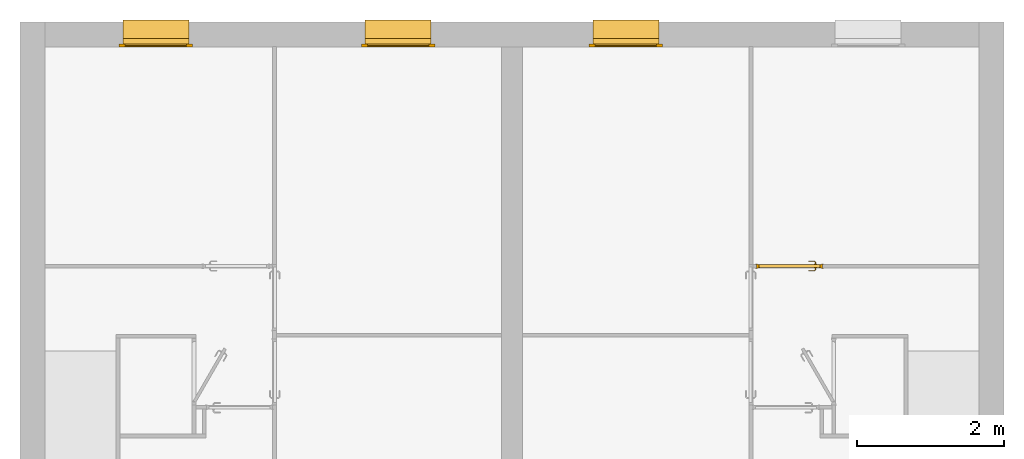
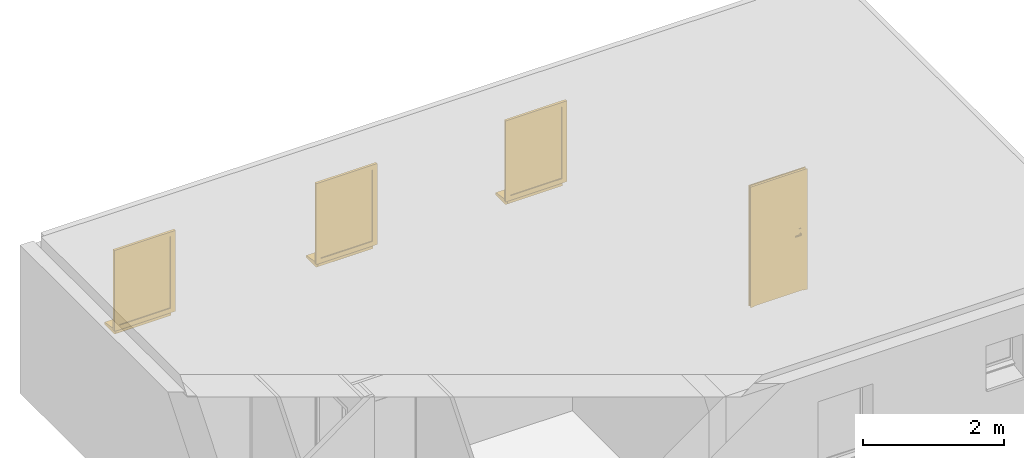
# One storey, part 12 of 14: 3 windows, 1 door.
"""IFC2X3 building model written with IfcOpenShell, lengths in millimetres."""

from ifc_helpers import new_model, entity, si_unit, converted_unit, direction, frame, origin, origin_with_axes, place, context, project, spatial, faceted_brep, element, save


model = new_model("IFC2X3")

# Units and contexts
model_context = context("Model", 3, precision=1e-05, world=origin(), true_north=direction((0.0, 1.0, 0.0)))
ifc_project = project(units=[si_unit("LENGTHUNIT", "METRE", prefix="MILLI"), si_unit("AREAUNIT", "SQUARE_METRE"), si_unit("VOLUMEUNIT", "CUBIC_METRE"), converted_unit("PLANEANGLEUNIT", "DEGREE", entity("IfcPlaneAngleMeasure", 0.01745), si_unit("PLANEANGLEUNIT", "RADIAN"), dimensions=[0, 0, 0, 0, 0, 0, 0]), si_unit("SOLIDANGLEUNIT", "STERADIAN"), si_unit("MASSUNIT", "GRAM"), si_unit("TIMEUNIT", "SECOND"), si_unit("THERMODYNAMICTEMPERATUREUNIT", "DEGREE_CELSIUS"), si_unit("LUMINOUSINTENSITYUNIT", "LUMEN")], contexts=[model_context])

# Site, building, storey
placement = place(None, origin_with_axes())
site_placement = place(placement, frame((11636.08881703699, 2815.7442167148, 4.768371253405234e-06), z_axis=(0.0, 0.0, 1.0), x_axis=(1.0, 0.0, 0.0)))
site = spatial("IfcSite", under=ifc_project, at=site_placement, Name="Surface", CompositionType="ELEMENT")
building_placement = place(placement, origin_with_axes())
building = spatial("IfcBuilding", under=site, at=building_placement, Name="Default Building", CompositionType="ELEMENT")
storey_placement = place(building_placement, origin_with_axes())
storey = spatial("IfcBuildingStorey", under=building, at=storey_placement, Name="Plan étage", CompositionType="ELEMENT", Elevation=0.0)

# Windows
window_1_placement = place(storey_placement, frame((11636.08881703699, 2815.7442167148, 4.768371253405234e-06), z_axis=(0.0, 0.0, 1.0), x_axis=(1.0, 0.0, 0.0)))
element("IfcWindow", 1, at=window_1_placement, inside=storey, Name="IfcWindow - FR_1  Vantail Appui Béton:90x135", context=model_context, shape_type="Brep", body=[
    faceted_brep([(-2966.088831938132, 5359.254523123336, 4859.943730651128), (-3806.088805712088, 5369.277170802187, 4859.943730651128), (-3806.088805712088, 5359.254523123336, 4859.943730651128), (-2966.088831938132, 5369.277170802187, 4859.943730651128), (-3806.088805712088, 5359.254523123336, 3619.999987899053), (-2966.088831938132, 5369.277170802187, 3619.999987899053), (-2966.088831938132, 5359.254523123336, 3619.999987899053), (-3806.088805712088, 5369.277170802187, 3619.999987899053), (-2936.088830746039, 5464.255781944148, 3558.350367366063), (-2936.088830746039, 5384.255783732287, 3540.000004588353), (-2936.088830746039, 5464.255781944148, 3540.000004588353), (-2936.088830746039, 5384.255783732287, 3575.329942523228), (-3836.088806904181, 5464.255781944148, 3540.000004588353), (-3836.088806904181, 5384.255783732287, 3575.329942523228), (-3836.088806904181, 5464.255781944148, 3558.350367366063), (-3836.088806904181, 5384.255783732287, 3540.000004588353), (-2886.08881882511, 5384.255783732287, 4939.943713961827), (-2966.088831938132, 5384.255783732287, 4859.943730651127), (-3886.08881882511, 5384.255783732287, 4939.943713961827), (-2966.088831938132, 5384.255783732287, 3619.999987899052), (-2886.08881882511, 5384.255783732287, 3540.000004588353), (-3806.088805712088, 5384.255783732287, 3619.999987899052), (-3806.088805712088, 5384.255783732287, 4859.943730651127), (-3886.08881882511, 5384.255783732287, 3540.000004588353), (-3886.08881882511, 5344.255784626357, 4939.943713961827), (-3806.088805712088, 5344.255784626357, 4859.943730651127), (-2886.08881882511, 5344.255784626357, 4939.943713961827), (-3806.088805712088, 5344.255784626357, 3619.999987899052), (-3886.08881882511, 5344.255784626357, 3540.000004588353), (-2966.088831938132, 5344.255784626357, 3619.999987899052), (-2966.088831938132, 5344.255784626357, 4859.943730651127), (-2886.08881882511, 5344.255784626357, 3540.000004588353), (-2936.088830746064, 5714.255789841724, 3420.576363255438), (-2936.088830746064, 5434.255781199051, 3506.120806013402), (-2936.088830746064, 5434.255781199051, 3420.576363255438), (-2936.088830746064, 5714.255789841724, 3460.275791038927), (-2936.088830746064, 5384.255776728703, 3539.999998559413), (-2936.088830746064, 5384.255776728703, 3462.110744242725), (-2936.088830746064, 5434.255781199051, 3539.999998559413), (-3836.088806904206, 5434.255781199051, 3420.576363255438), (-3836.088806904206, 5714.255789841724, 3460.275791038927), (-3836.088806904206, 5714.255789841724, 3420.576363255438), (-3836.088806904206, 5434.255781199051, 3506.120806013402), (-3836.088806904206, 5384.255776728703, 3462.110744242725), (-3836.088806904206, 5434.255781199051, 3539.999998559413), (-3836.088806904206, 5384.255776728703, 3539.999998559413)], [[[0, 1, 2]], [[0, 3, 1]], [[4, 5, 6]], [[4, 7, 5]], [[3, 6, 5]], [[3, 0, 6]], [[1, 5, 7]], [[1, 3, 5]], [[2, 7, 4]], [[2, 1, 7]], [[0, 4, 6]], [[0, 2, 4]], [[8, 9, 10]], [[8, 11, 9]], [[12, 13, 14]], [[12, 15, 13]], [[11, 14, 13]], [[11, 8, 14]], [[9, 13, 15]], [[9, 11, 13]], [[10, 15, 12]], [[10, 9, 15]], [[8, 12, 14]], [[8, 10, 12]], [[16, 17, 18]], [[16, 19, 17]], [[19, 20, 21]], [[20, 19, 16]], [[22, 18, 17]], [[21, 18, 22]], [[21, 23, 18]], [[23, 21, 20]], [[24, 25, 26]], [[24, 27, 25]], [[27, 28, 29]], [[28, 27, 24]], [[30, 26, 25]], [[29, 26, 30]], [[29, 31, 26]], [[31, 29, 28]], [[21, 25, 27]], [[21, 22, 25]], [[19, 27, 29]], [[19, 21, 27]], [[17, 29, 30]], [[17, 19, 29]], [[22, 30, 25]], [[22, 17, 30]], [[18, 28, 24]], [[18, 23, 28]], [[16, 24, 26]], [[16, 18, 24]], [[20, 26, 31]], [[20, 16, 26]], [[23, 31, 28]], [[23, 20, 31]], [[32, 33, 34]], [[33, 32, 35]], [[34, 36, 37]], [[33, 36, 34]], [[36, 33, 38]], [[39, 40, 41]], [[39, 42, 40]], [[43, 44, 39]], [[44, 43, 45]], [[36, 44, 45]], [[36, 38, 44]], [[37, 45, 43]], [[37, 36, 45]], [[34, 43, 39]], [[34, 37, 43]], [[32, 39, 41]], [[32, 34, 39]], [[35, 41, 40]], [[35, 32, 41]], [[33, 40, 42]], [[33, 35, 40]], [[38, 42, 44]], [[38, 33, 42]]]),
])
window_2_placement = place(storey_placement, frame((11636.08881703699, 2815.7442167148, 4.768371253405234e-06), z_axis=(0.0, 0.0, 1.0), x_axis=(1.0, 0.0, 0.0)))
element("IfcWindow", 2, at=window_2_placement, inside=storey, Name="IfcWindow - FR_1  Vantail Appui Béton:90x135", context=model_context, shape_type="Brep", body=[
    faceted_brep([(-9366.088831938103, 5359.254523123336, 4859.943730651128), (-10206.08880571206, 5369.277170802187, 4859.943730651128), (-10206.08880571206, 5359.254523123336, 4859.943730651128), (-9366.088831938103, 5369.277170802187, 4859.943730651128), (-10206.08880571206, 5359.254523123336, 3619.999987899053), (-9366.088831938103, 5369.277170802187, 3619.999987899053), (-9366.088831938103, 5359.254523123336, 3619.999987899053), (-10206.08880571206, 5369.277170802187, 3619.999987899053), (-9336.08883074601, 5464.255781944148, 3558.350367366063), (-9336.08883074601, 5384.255783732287, 3540.000004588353), (-9336.08883074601, 5464.255781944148, 3540.000004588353), (-9336.08883074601, 5384.255783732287, 3575.329942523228), (-10236.08880690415, 5464.255781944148, 3540.000004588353), (-10236.08880690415, 5384.255783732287, 3575.329942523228), (-10236.08880690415, 5464.255781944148, 3558.350367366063), (-10236.08880690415, 5384.255783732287, 3540.000004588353), (-9286.088818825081, 5384.255783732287, 4939.943713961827), (-9366.088831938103, 5384.255783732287, 4859.943730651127), (-10286.08881882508, 5384.255783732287, 4939.943713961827), (-9366.088831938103, 5384.255783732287, 3619.999987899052), (-9286.088818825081, 5384.255783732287, 3540.000004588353), (-10206.08880571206, 5384.255783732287, 3619.999987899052), (-10206.08880571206, 5384.255783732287, 4859.943730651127), (-10286.08881882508, 5384.255783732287, 3540.000004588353), (-10286.08881882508, 5344.255784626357, 4939.943713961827), (-10206.08880571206, 5344.255784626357, 4859.943730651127), (-9286.088818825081, 5344.255784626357, 4939.943713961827), (-10206.08880571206, 5344.255784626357, 3619.999987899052), (-10286.08881882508, 5344.255784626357, 3540.000004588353), (-9366.088831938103, 5344.255784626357, 3619.999987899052), (-9366.088831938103, 5344.255784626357, 4859.943730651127), (-9286.088818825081, 5344.255784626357, 3540.000004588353), (-9336.088830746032, 5714.255789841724, 3420.576363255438), (-9336.088830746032, 5434.255781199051, 3506.120806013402), (-9336.088830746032, 5434.255781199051, 3420.576363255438), (-9336.088830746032, 5714.255789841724, 3460.275791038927), (-9336.088830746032, 5384.255776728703, 3539.999998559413), (-9336.088830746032, 5384.255776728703, 3462.110744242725), (-9336.088830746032, 5434.255781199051, 3539.999998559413), (-10236.08880690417, 5434.255781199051, 3420.576363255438), (-10236.08880690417, 5714.255789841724, 3460.275791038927), (-10236.08880690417, 5714.255789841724, 3420.576363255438), (-10236.08880690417, 5434.255781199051, 3506.120806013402), (-10236.08880690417, 5384.255776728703, 3462.110744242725), (-10236.08880690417, 5434.255781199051, 3539.999998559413), (-10236.08880690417, 5384.255776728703, 3539.999998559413)], [[[0, 1, 2]], [[0, 3, 1]], [[4, 5, 6]], [[4, 7, 5]], [[3, 6, 5]], [[3, 0, 6]], [[1, 5, 7]], [[1, 3, 5]], [[2, 7, 4]], [[2, 1, 7]], [[0, 4, 6]], [[0, 2, 4]], [[8, 9, 10]], [[8, 11, 9]], [[12, 13, 14]], [[12, 15, 13]], [[11, 14, 13]], [[11, 8, 14]], [[9, 13, 15]], [[9, 11, 13]], [[10, 15, 12]], [[10, 9, 15]], [[8, 12, 14]], [[8, 10, 12]], [[16, 17, 18]], [[16, 19, 17]], [[19, 20, 21]], [[20, 19, 16]], [[22, 18, 17]], [[21, 18, 22]], [[21, 23, 18]], [[23, 21, 20]], [[24, 25, 26]], [[24, 27, 25]], [[27, 28, 29]], [[28, 27, 24]], [[30, 26, 25]], [[29, 26, 30]], [[29, 31, 26]], [[31, 29, 28]], [[21, 25, 27]], [[21, 22, 25]], [[19, 27, 29]], [[19, 21, 27]], [[17, 29, 30]], [[17, 19, 29]], [[22, 30, 25]], [[22, 17, 30]], [[18, 28, 24]], [[18, 23, 28]], [[16, 24, 26]], [[16, 18, 24]], [[20, 26, 31]], [[20, 16, 26]], [[23, 31, 28]], [[23, 20, 31]], [[32, 33, 34]], [[33, 32, 35]], [[34, 36, 37]], [[33, 36, 34]], [[36, 33, 38]], [[39, 40, 41]], [[39, 42, 40]], [[43, 44, 39]], [[44, 43, 45]], [[36, 44, 45]], [[36, 38, 44]], [[37, 45, 43]], [[37, 36, 45]], [[34, 43, 39]], [[34, 37, 43]], [[32, 39, 41]], [[32, 34, 39]], [[35, 41, 40]], [[35, 32, 41]], [[33, 40, 42]], [[33, 35, 40]], [[38, 42, 44]], [[38, 33, 42]]]),
])
window_3_placement = place(storey_placement, frame((11636.08881703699, 2815.7442167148, 4.768371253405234e-06), z_axis=(0.0, 0.0, 1.0), x_axis=(1.0, 0.0, 0.0)))
element("IfcWindow", 3, at=window_3_placement, inside=storey, Name="IfcWindow - FR_1  Vantail Appui Béton:90x135", context=model_context, shape_type="Brep", body=[
    faceted_brep([(-6906.088805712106, 5359.25452312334, 4859.943730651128), (-6066.08883193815, 5369.277170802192, 4859.943730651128), (-6906.088805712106, 5369.277170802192, 4859.943730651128), (-6066.08883193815, 5359.25452312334, 4859.943730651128), (-6906.088805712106, 5369.277170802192, 3619.999987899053), (-6066.08883193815, 5359.25452312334, 3619.999987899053), (-6906.088805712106, 5359.25452312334, 3619.999987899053), (-6066.08883193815, 5369.277170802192, 3619.999987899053), (-6936.088806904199, 5464.255781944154, 3558.350367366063), (-6936.088806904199, 5384.255783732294, 3540.000004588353), (-6936.088806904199, 5384.255783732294, 3575.329942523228), (-6936.088806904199, 5464.255781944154, 3540.000004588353), (-6036.088830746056, 5384.255783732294, 3575.329942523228), (-6036.088830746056, 5464.255781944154, 3540.000004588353), (-6036.088830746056, 5464.255781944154, 3558.350367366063), (-6036.088830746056, 5384.255783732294, 3540.000004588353), (-6986.088818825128, 5344.255784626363, 3540.000004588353), (-6906.088805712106, 5344.255784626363, 3619.999987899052), (-6986.088818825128, 5344.255784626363, 4939.943713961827), (-6066.08883193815, 5344.255784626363, 3619.999987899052), (-5986.088818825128, 5344.255784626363, 3540.000004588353), (-6066.08883193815, 5344.255784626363, 4859.943730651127), (-6906.088805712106, 5344.255784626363, 4859.943730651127), (-5986.088818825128, 5344.255784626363, 4939.943713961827), (-6986.088818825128, 5384.255783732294, 4939.943713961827), (-6906.088805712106, 5384.255783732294, 4859.943730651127), (-6986.088818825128, 5384.255783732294, 3540.000004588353), (-6066.08883193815, 5384.255783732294, 4859.943730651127), (-5986.088818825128, 5384.255783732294, 4939.943713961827), (-6066.08883193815, 5384.255783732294, 3619.999987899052), (-6906.088805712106, 5384.255783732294, 3619.999987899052), (-5986.088818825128, 5384.255783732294, 3540.000004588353), (-6936.088806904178, 5434.255781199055, 3420.576363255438), (-6936.088806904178, 5714.255789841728, 3460.275791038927), (-6936.088806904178, 5714.255789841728, 3420.576363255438), (-6936.088806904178, 5434.255781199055, 3506.120806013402), (-6936.088806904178, 5384.255776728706, 3462.110744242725), (-6936.088806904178, 5434.255781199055, 3539.999998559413), (-6936.088806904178, 5384.255776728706, 3539.999998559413), (-6036.088830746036, 5714.255789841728, 3420.576363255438), (-6036.088830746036, 5434.255781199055, 3506.120806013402), (-6036.088830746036, 5434.255781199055, 3420.576363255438), (-6036.088830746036, 5714.255789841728, 3460.275791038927), (-6036.088830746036, 5384.255776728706, 3539.999998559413), (-6036.088830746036, 5384.255776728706, 3462.110744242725), (-6036.088830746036, 5434.255781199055, 3539.999998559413)], [[[0, 1, 2]], [[0, 3, 1]], [[4, 5, 6]], [[4, 7, 5]], [[3, 6, 5]], [[3, 0, 6]], [[1, 5, 7]], [[1, 3, 5]], [[2, 7, 4]], [[2, 1, 7]], [[0, 4, 6]], [[0, 2, 4]], [[8, 9, 10]], [[8, 11, 9]], [[12, 13, 14]], [[12, 15, 13]], [[11, 14, 13]], [[11, 8, 14]], [[9, 13, 15]], [[9, 11, 13]], [[10, 15, 12]], [[10, 9, 15]], [[8, 12, 14]], [[8, 10, 12]], [[16, 17, 18]], [[16, 19, 17]], [[19, 20, 21]], [[20, 19, 16]], [[22, 18, 17]], [[21, 18, 22]], [[21, 23, 18]], [[23, 21, 20]], [[24, 25, 26]], [[24, 27, 25]], [[27, 28, 29]], [[28, 27, 24]], [[30, 26, 25]], [[29, 26, 30]], [[29, 31, 26]], [[31, 29, 28]], [[17, 29, 30]], [[17, 19, 29]], [[22, 30, 25]], [[22, 17, 30]], [[21, 25, 27]], [[21, 22, 25]], [[19, 27, 29]], [[19, 21, 27]], [[18, 28, 24]], [[18, 23, 28]], [[16, 24, 26]], [[16, 18, 24]], [[20, 26, 31]], [[20, 16, 26]], [[23, 31, 28]], [[23, 20, 31]], [[32, 33, 34]], [[32, 35, 33]], [[36, 37, 32]], [[37, 36, 38]], [[39, 40, 41]], [[40, 39, 42]], [[41, 43, 44]], [[40, 43, 41]], [[43, 40, 45]], [[43, 37, 38]], [[43, 45, 37]], [[44, 38, 36]], [[44, 43, 38]], [[41, 36, 32]], [[41, 44, 36]], [[39, 32, 34]], [[39, 41, 32]], [[42, 34, 33]], [[42, 39, 34]], [[40, 33, 35]], [[40, 42, 33]], [[45, 35, 37]], [[45, 40, 35]]]),
])

# Door
door_placement = place(storey_placement, frame((11636.08881703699, 2815.7442167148, 4.768371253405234e-06), z_axis=(0.0, 0.0, 1.0), x_axis=(1.0, 0.0, 0.0)))
element("IfcDoor", 4, at=door_placement, inside=storey, Name="IfcDoor - Int. Simple:PP (0.83m x 2.04m)", context=model_context, shape_type="Brep", body=[
    faceted_brep([(-721.088816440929, 2389.255782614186, 2740.000042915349), (-691.0888152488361, 2384.255783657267, 2740.000042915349), (-721.088816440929, 2384.255783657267, 2740.000042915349), (-691.0888152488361, 2389.255782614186, 2740.000042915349), (-1591.0888212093, 2389.255782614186, 2740.000042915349), (-1621.088822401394, 2384.255783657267, 2740.000042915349), (-1621.088822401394, 2389.255782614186, 2740.000042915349), (-1591.0888212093, 2384.255783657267, 2740.000042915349), (-721.088816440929, 2389.255782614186, 4799.99998569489), (-1591.0888212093, 2384.255783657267, 4799.99998569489), (-1591.0888212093, 2389.255782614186, 4799.99998569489), (-721.088816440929, 2384.255783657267, 4799.99998569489), (-691.0888152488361, 2384.255783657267, 4829.99995708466), (-1621.088822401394, 2389.255782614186, 4829.99995708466), (-1621.088822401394, 2384.255783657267, 4829.99995708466), (-691.0888152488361, 2389.255782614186, 4829.99995708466), (-721.088816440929, 2334.25578291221, 4799.99998569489), (-1591.0888212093, 2329.255783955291, 4799.99998569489), (-1591.0888212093, 2334.25578291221, 4799.99998569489), (-721.088816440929, 2329.255783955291, 4799.99998569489), (-691.0888152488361, 2329.255783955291, 4829.99995708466), (-1621.088822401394, 2334.25578291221, 4829.99995708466), (-1621.088822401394, 2329.255783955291, 4829.99995708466), (-691.0888152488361, 2334.25578291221, 4829.99995708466), (-1621.088822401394, 2334.25578291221, 2740.000042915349), (-1621.088822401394, 2329.255783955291, 2740.000042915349), (-1591.0888212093, 2329.255783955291, 2740.000042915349), (-1591.0888212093, 2334.25578291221, 2740.000042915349), (-721.088816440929, 2334.25578291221, 2740.000042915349), (-721.088816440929, 2329.255783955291, 2740.000042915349), (-691.0888152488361, 2329.255783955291, 2740.000042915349), (-691.0888152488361, 2334.25578291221, 2740.000042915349), (-741.0888271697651, 2384.255783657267, 4780.000004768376), (-1571.088810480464, 2344.255783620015, 4780.000004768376), (-1571.088810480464, 2384.255783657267, 4780.000004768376), (-741.0888271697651, 2344.255783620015, 4780.000004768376), (-756.0888128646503, 2344.255783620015, 4765.000019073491), (-1556.088824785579, 2334.25578291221, 4765.000019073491), (-1556.088824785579, 2344.255783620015, 4765.000019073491), (-756.0888128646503, 2334.25578291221, 4765.000019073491), (-706.0888307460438, 2334.25578291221, 4814.999971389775), (-1606.088806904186, 2384.255783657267, 4814.999971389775), (-1606.088806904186, 2334.25578291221, 4814.999971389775), (-706.0888307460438, 2384.255783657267, 4814.999971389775), (-1571.088810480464, 2344.255783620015, 2740.000042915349), (-1571.088810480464, 2384.255783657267, 2740.000042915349), (-1556.088824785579, 2334.25578291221, 2740.000042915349), (-1556.088824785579, 2344.255783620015, 2740.000042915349), (-1606.088806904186, 2334.25578291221, 2740.000042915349), (-1606.088806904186, 2384.255783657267, 2740.000042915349), (-741.0888271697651, 2384.255783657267, 2740.000042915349), (-706.0888307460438, 2384.255783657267, 2740.000042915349), (-741.0888271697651, 2344.255783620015, 2740.000042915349), (-756.0888128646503, 2344.255783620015, 2740.000042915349), (-756.0888128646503, 2334.25578291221, 2740.000042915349), (-706.0888307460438, 2334.25578291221, 2740.000042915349), (-741.0888271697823, 2344.255783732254, 4779.999980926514), (-741.0888271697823, 2384.255782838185, 2740.000019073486), (-741.0888271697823, 2384.255782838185, 4779.999980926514), (-741.0888271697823, 2344.255783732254, 2740.000019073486), (-1571.088810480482, 2384.255782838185, 2740.000019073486), (-1571.088810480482, 2344.255783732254, 2740.000019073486), (-1571.088810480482, 2384.255782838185, 4779.999980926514), (-1571.088810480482, 2344.255783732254, 4779.999980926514), (-815.2499128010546, 2297.260002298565, 3732.219558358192), (-859.0311635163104, 2299.285301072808, 3732.121313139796), (-816.9277258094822, 2301.310592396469, 3732.219558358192), (-853.5340227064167, 2293.285296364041, 3732.999999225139), (-901.1346012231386, 2301.310592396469, 3732.219558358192), (-859.8543390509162, 2305.285298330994, 3732.999999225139), (-901.1346012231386, 2297.260002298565, 3732.219558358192), (-901.1346012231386, 2305.285298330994, 3732.999999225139), (-818.574101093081, 2305.285298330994, 3732.999999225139), (-813.6035375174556, 2293.285296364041, 3732.999999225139), (-901.1346012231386, 2293.285296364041, 3732.999999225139), (-853.5340245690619, 2293.285296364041, 3747.000001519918), (-901.1346012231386, 2293.285296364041, 3747.000001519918), (-813.6035375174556, 2293.285296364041, 3747.000001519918), (-901.1346012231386, 2297.260002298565, 3747.780442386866), (-859.0311635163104, 2299.285301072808, 3747.878685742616), (-901.1346012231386, 2301.310592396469, 3747.780442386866), (-816.9277258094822, 2301.310592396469, 3747.780442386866), (-859.8543520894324, 2305.285298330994, 3747.000001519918), (-815.2499128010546, 2297.260002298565, 3747.780442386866), (-901.1346012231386, 2305.285298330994, 3747.000001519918), (-818.574101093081, 2305.285298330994, 3747.000001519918), (-807.0888206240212, 2316.770576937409, 3732.999999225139), (-803.114118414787, 2315.124203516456, 3732.219558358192), (-799.0635208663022, 2313.446392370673, 3732.219558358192), (-795.0888186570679, 2311.800015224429, 3732.999999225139), (-795.0888186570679, 2311.800015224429, 3747.000001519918), (-799.0635208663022, 2313.446392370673, 3747.780442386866), (-803.114118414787, 2315.124203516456, 3747.780442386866), (-807.0888206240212, 2316.770576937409, 3747.000001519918), (-807.0888206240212, 2339.255782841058, 3732.999999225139), (-803.114118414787, 2339.255782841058, 3732.219558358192), (-799.0635208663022, 2339.255782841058, 3732.219558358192), (-795.0888186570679, 2339.255782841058, 3732.999999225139), (-795.0888186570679, 2339.255782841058, 3747.000001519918), (-799.0635208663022, 2339.255782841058, 3747.780442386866), (-803.114118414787, 2339.255782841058, 3747.780442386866), (-807.0888206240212, 2339.255782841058, 3747.000001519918), (-901.1074587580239, 2435.283945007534, 3747.000001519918), (-813.4660296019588, 2435.283945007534, 3732.999999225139), (-901.1074587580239, 2435.283945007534, 3732.999999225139), (-813.4660296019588, 2435.283945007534, 3747.000001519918), (-901.1074587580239, 2431.30923907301, 3732.219558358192), (-858.9488383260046, 2429.283947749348, 3732.121313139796), (-901.1074587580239, 2427.258648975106, 3732.219558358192), (-816.7902160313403, 2427.258648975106, 3732.219558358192), (-859.7720250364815, 2423.283943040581, 3732.999999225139), (-815.1124048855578, 2431.30923907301, 3732.219558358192), (-853.3965194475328, 2435.283945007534, 3732.999999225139), (-901.1074587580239, 2423.283943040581, 3732.999999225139), (-818.436591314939, 2423.283943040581, 3732.999999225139), (-859.7720250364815, 2423.283943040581, 3747.000001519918), (-818.436591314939, 2423.283943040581, 3747.000001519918), (-901.1074587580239, 2423.283943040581, 3747.000001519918), (-815.1124048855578, 2431.30923907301, 3747.780442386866), (-858.9488383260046, 2429.283940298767, 3747.878685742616), (-816.7902160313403, 2427.258648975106, 3747.780442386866), (-853.3965157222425, 2435.283945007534, 3747.000001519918), (-901.1074587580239, 2427.258648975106, 3747.780442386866), (-901.1074587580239, 2431.30923907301, 3747.780442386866), (-795.0888186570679, 2416.906734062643, 3747.000001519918), (-795.0888186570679, 2416.906734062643, 3732.999999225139), (-799.0635208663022, 2415.26036064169, 3732.219558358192), (-803.114118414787, 2413.582545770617, 3732.219558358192), (-807.0888206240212, 2411.936172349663, 3732.999999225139), (-807.0888206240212, 2411.936172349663, 3747.000001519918), (-803.114118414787, 2413.582545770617, 3747.780442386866), (-799.0635208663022, 2415.26036064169, 3747.780442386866), (-795.0888186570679, 2389.255783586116, 3747.000001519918), (-795.0888186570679, 2389.255783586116, 3732.999999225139), (-799.0635208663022, 2389.255783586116, 3732.219558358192), (-803.114118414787, 2389.255783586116, 3732.219558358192), (-807.0888206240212, 2389.255783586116, 3732.999999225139), (-807.0888206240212, 2389.255783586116, 3747.000001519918), (-803.114118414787, 2389.255783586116, 3747.780442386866), (-799.0635208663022, 2389.255783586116, 3747.780442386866), (-821.0888191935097, 2344.255783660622, 3819.999996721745), (-821.0888191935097, 2339.255782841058, 3610.000003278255), (-821.0888191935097, 2339.255782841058, 3819.999996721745), (-821.0888191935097, 2344.255783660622, 3610.000003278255), (-811.4415801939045, 2339.255782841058, 3606.003981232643), (-811.4415801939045, 2344.255783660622, 3606.003981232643), (-801.0888196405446, 2339.255782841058, 3604.641016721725), (-801.0888196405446, 2344.255783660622, 3604.641016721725), (-790.7360553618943, 2344.255783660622, 3606.003981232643), (-790.7360553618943, 2339.255782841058, 3606.003981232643), (-781.0888200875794, 2339.255782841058, 3610.000003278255), (-781.0888200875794, 2344.255783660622, 3610.000003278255), (-781.0888200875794, 2339.255782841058, 3819.999996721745), (-781.0888200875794, 2344.255783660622, 3819.999996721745), (-790.7360553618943, 2339.255782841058, 3823.996018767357), (-790.7360553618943, 2344.255783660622, 3823.996018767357), (-801.0888196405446, 2339.255782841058, 3825.358983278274), (-801.0888196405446, 2344.255783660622, 3825.358983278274), (-811.4415801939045, 2344.255783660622, 3823.996018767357), (-811.4415801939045, 2339.255782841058, 3823.996018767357), (-781.0888200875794, 2389.255783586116, 3610.000003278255), (-781.0888200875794, 2384.255782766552, 3819.999996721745), (-781.0888200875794, 2384.255782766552, 3610.000003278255), (-781.0888200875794, 2389.255783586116, 3819.999996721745), (-790.7360553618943, 2384.255782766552, 3823.996018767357), (-790.7360553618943, 2389.255783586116, 3823.996018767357), (-801.0888196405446, 2384.255782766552, 3825.358983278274), (-801.0888196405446, 2389.255783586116, 3825.358983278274), (-811.4415801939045, 2389.255783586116, 3823.996018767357), (-811.4415801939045, 2384.255782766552, 3823.996018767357), (-821.0888191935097, 2384.255782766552, 3819.999996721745), (-821.0888191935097, 2389.255783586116, 3819.999996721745), (-821.0888191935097, 2384.255782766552, 3610.000003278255), (-821.0888191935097, 2389.255783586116, 3610.000003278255), (-811.4415801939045, 2384.255782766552, 3606.003981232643), (-811.4415801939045, 2389.255783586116, 3606.003981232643), (-801.0888196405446, 2384.255782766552, 3604.641016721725), (-801.0888196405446, 2389.255783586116, 3604.641016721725), (-790.7360553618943, 2389.255783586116, 3606.003981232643), (-790.7360553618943, 2384.255782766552, 3606.003981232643)], [[[0, 1, 2]], [[0, 3, 1]], [[4, 5, 6]], [[4, 7, 5]], [[8, 9, 10]], [[8, 11, 9]], [[12, 13, 14]], [[12, 15, 13]], [[14, 6, 5]], [[14, 13, 6]], [[10, 7, 4]], [[10, 9, 7]], [[0, 11, 8]], [[0, 2, 11]], [[12, 9, 11]], [[14, 9, 12]], [[14, 7, 9]], [[7, 14, 5]], [[11, 1, 12]], [[1, 11, 2]], [[1, 15, 12]], [[1, 3, 15]], [[13, 10, 6]], [[13, 8, 10]], [[15, 8, 13]], [[15, 0, 8]], [[0, 15, 3]], [[6, 10, 4]], [[16, 17, 18]], [[16, 19, 17]], [[20, 21, 22]], [[20, 23, 21]], [[22, 24, 25]], [[22, 21, 24]], [[18, 26, 27]], [[18, 17, 26]], [[27, 25, 24]], [[27, 26, 25]], [[28, 19, 16]], [[28, 29, 19]], [[20, 17, 19]], [[22, 17, 20]], [[22, 26, 17]], [[26, 22, 25]], [[19, 30, 20]], [[30, 19, 29]], [[30, 23, 20]], [[30, 31, 23]], [[21, 18, 24]], [[21, 16, 18]], [[23, 16, 21]], [[23, 28, 16]], [[28, 23, 31]], [[24, 18, 27]], [[28, 30, 29]], [[28, 31, 30]], [[32, 33, 34]], [[32, 35, 33]], [[36, 37, 38]], [[36, 39, 37]], [[40, 41, 42]], [[40, 43, 41]], [[34, 44, 45]], [[34, 33, 44]], [[38, 46, 47]], [[38, 37, 46]], [[46, 44, 47]], [[48, 44, 46]], [[48, 45, 44]], [[45, 48, 49]], [[42, 49, 48]], [[42, 41, 49]], [[41, 34, 49]], [[41, 32, 34]], [[43, 32, 41]], [[43, 50, 32]], [[50, 43, 51]], [[49, 34, 45]], [[50, 35, 32]], [[50, 52, 35]], [[33, 38, 44]], [[33, 36, 38]], [[35, 36, 33]], [[35, 53, 36]], [[53, 35, 52]], [[44, 38, 47]], [[53, 39, 36]], [[53, 54, 39]], [[40, 54, 55]], [[40, 39, 54]], [[40, 37, 39]], [[42, 37, 40]], [[42, 46, 37]], [[46, 42, 48]], [[55, 43, 40]], [[55, 51, 43]], [[53, 55, 54]], [[52, 55, 53]], [[50, 55, 52]], [[55, 50, 51]], [[56, 57, 58]], [[56, 59, 57]], [[59, 60, 57]], [[59, 61, 60]], [[61, 62, 60]], [[61, 63, 62]], [[63, 58, 62]], [[63, 56, 58]], [[58, 60, 62]], [[58, 57, 60]], [[56, 61, 59]], [[56, 63, 61]], [[64, 65, 66]], [[64, 67, 65]], [[68, 69, 65]], [[70, 68, 65]], [[69, 68, 71]], [[72, 66, 69]], [[65, 69, 66]], [[64, 73, 67]], [[74, 70, 67]], [[67, 70, 65]], [[74, 75, 76]], [[67, 75, 74]], [[73, 75, 67]], [[75, 73, 77]], [[78, 79, 80]], [[81, 82, 79]], [[83, 81, 79]], [[75, 83, 79]], [[77, 83, 75]], [[76, 75, 78]], [[82, 84, 80]], [[85, 82, 81]], [[75, 79, 78]], [[82, 80, 79]], [[84, 69, 71]], [[84, 72, 69]], [[82, 72, 84]], [[72, 82, 85]], [[76, 70, 74]], [[78, 70, 76]], [[78, 68, 70]], [[80, 68, 78]], [[80, 71, 68]], [[71, 80, 84]], [[66, 86, 87]], [[66, 72, 86]], [[73, 88, 89]], [[73, 64, 88]], [[89, 77, 73]], [[89, 90, 77]], [[83, 90, 91]], [[83, 77, 90]], [[85, 92, 93]], [[85, 81, 92]], [[93, 72, 85]], [[93, 86, 72]], [[87, 94, 95]], [[87, 86, 94]], [[87, 64, 66]], [[87, 88, 64]], [[95, 88, 87]], [[88, 95, 96]], [[89, 96, 97]], [[89, 88, 96]], [[97, 90, 89]], [[97, 98, 90]], [[91, 98, 99]], [[91, 90, 98]], [[83, 92, 81]], [[91, 92, 83]], [[91, 100, 92]], [[100, 91, 99]], [[93, 100, 101]], [[93, 92, 100]], [[101, 86, 93]], [[101, 94, 86]], [[96, 98, 97]], [[96, 99, 98]], [[95, 99, 96]], [[95, 100, 99]], [[94, 100, 95]], [[100, 94, 101]], [[102, 103, 104]], [[102, 105, 103]], [[106, 107, 108]], [[109, 110, 107]], [[111, 109, 107]], [[112, 111, 107]], [[103, 111, 112]], [[104, 112, 106]], [[110, 113, 108]], [[114, 110, 109]], [[112, 107, 106]], [[110, 108, 107]], [[115, 114, 116]], [[117, 114, 115]], [[117, 110, 114]], [[110, 117, 113]], [[118, 119, 120]], [[118, 121, 119]], [[122, 115, 119]], [[123, 122, 119]], [[115, 122, 117]], [[116, 120, 115]], [[119, 115, 120]], [[118, 105, 121]], [[102, 123, 121]], [[121, 123, 119]], [[117, 108, 113]], [[122, 108, 117]], [[122, 106, 108]], [[123, 106, 122]], [[123, 104, 106]], [[104, 123, 102]], [[124, 103, 105]], [[124, 125, 103]], [[111, 125, 126]], [[111, 103, 125]], [[114, 127, 128]], [[114, 109, 127]], [[128, 116, 114]], [[128, 129, 116]], [[120, 129, 130]], [[120, 116, 129]], [[105, 131, 124]], [[105, 118, 131]], [[132, 125, 124]], [[132, 133, 125]], [[126, 133, 134]], [[126, 125, 133]], [[111, 127, 109]], [[126, 127, 111]], [[126, 135, 127]], [[135, 126, 134]], [[128, 135, 136]], [[128, 127, 135]], [[136, 129, 128]], [[136, 137, 129]], [[130, 137, 138]], [[130, 129, 137]], [[130, 118, 120]], [[130, 131, 118]], [[138, 131, 130]], [[131, 138, 139]], [[124, 139, 132]], [[124, 131, 139]], [[136, 138, 137]], [[135, 138, 136]], [[135, 139, 138]], [[134, 139, 135]], [[134, 132, 139]], [[132, 134, 133]], [[140, 141, 142]], [[140, 143, 141]], [[144, 143, 145]], [[144, 141, 143]], [[146, 145, 147]], [[146, 144, 145]], [[148, 146, 147]], [[148, 149, 146]], [[150, 148, 151]], [[150, 149, 148]], [[151, 152, 150]], [[151, 153, 152]], [[154, 153, 155]], [[154, 152, 153]], [[156, 155, 157]], [[156, 154, 155]], [[158, 156, 157]], [[158, 159, 156]], [[142, 158, 140]], [[142, 159, 158]], [[146, 141, 144]], [[149, 141, 146]], [[150, 141, 149]], [[150, 142, 141]], [[150, 159, 142]], [[150, 156, 159]], [[150, 154, 156]], [[154, 150, 152]], [[157, 140, 158]], [[155, 140, 157]], [[153, 140, 155]], [[153, 143, 140]], [[153, 145, 143]], [[153, 147, 145]], [[153, 148, 147]], [[148, 153, 151]], [[160, 161, 162]], [[160, 163, 161]], [[164, 163, 165]], [[164, 161, 163]], [[166, 165, 167]], [[166, 164, 165]], [[168, 166, 167]], [[168, 169, 166]], [[170, 168, 171]], [[170, 169, 168]], [[171, 172, 170]], [[171, 173, 172]], [[174, 173, 175]], [[174, 172, 173]], [[176, 175, 177]], [[176, 174, 175]], [[178, 176, 177]], [[178, 179, 176]], [[162, 178, 160]], [[162, 179, 178]], [[176, 172, 174]], [[179, 172, 176]], [[162, 172, 179]], [[162, 170, 172]], [[162, 169, 170]], [[162, 166, 169]], [[162, 164, 166]], [[164, 162, 161]], [[167, 171, 168]], [[165, 171, 167]], [[163, 171, 165]], [[163, 173, 171]], [[163, 175, 173]], [[163, 177, 175]], [[163, 178, 177]], [[178, 163, 160]]]),
])

save(model, "model.ifc")
